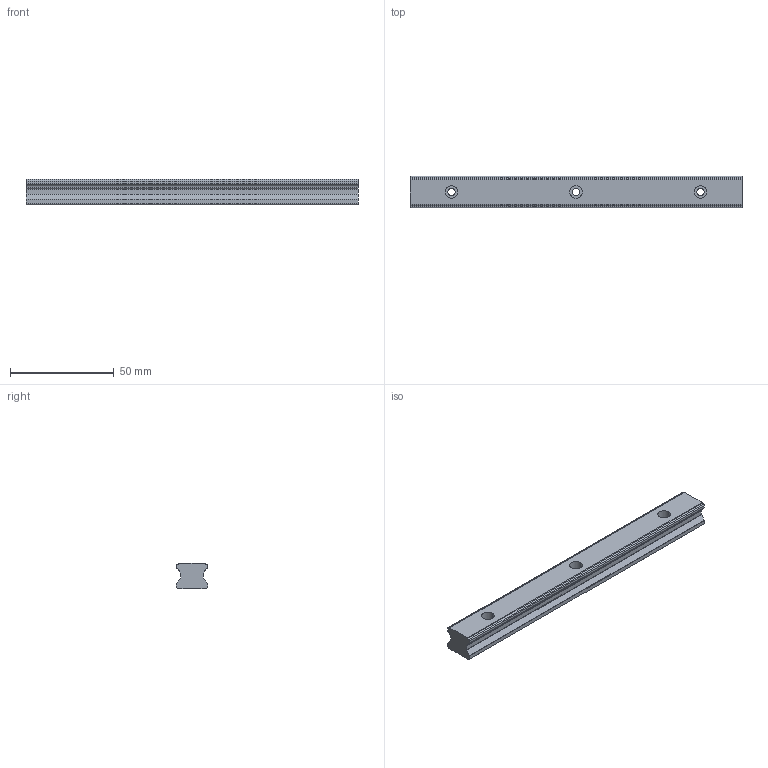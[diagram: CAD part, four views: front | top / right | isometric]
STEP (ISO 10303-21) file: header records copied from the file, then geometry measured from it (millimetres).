
FILE_DESCRIPTION(('starvars output'),'2;1');
FILE_NAME('cv20190626225302000299059.stp','22:53:02 2019/06/26',( 'Thomas Industrial Network Germany GmbH'),( 'Thomas Industrial Network Germany GmbH'),'unknown preprocess','ACIS' ,'unknown authorization');
FILE_SCHEMA(('CONFIG_CONTROL_DESIGN {UNKNOWN IMPLEMENTATION LEVEL}'));
Length unit declared in the file: millimetre
Products named in the file (1): PRODUCT_ID_1
Bounding box: 160 x 15 x 12.5 mm (x, y, z)
Volume: 25629 mm3; surface area: 9788.5 mm2
Topology: 1 solids, 1 shells, 55 faces, 150 edges, 100 vertices
Faces by surface type: cylinder 32, plane 23
Entity records: 1775 total; most frequent: ORIENTED_EDGE 300, DIRECTION 288, CARTESIAN_POINT 287, EDGE_CURVE 150, AXIS2_PLACEMENT_3D 101, VERTEX_POINT 100, VECTOR 86, LINE 86
